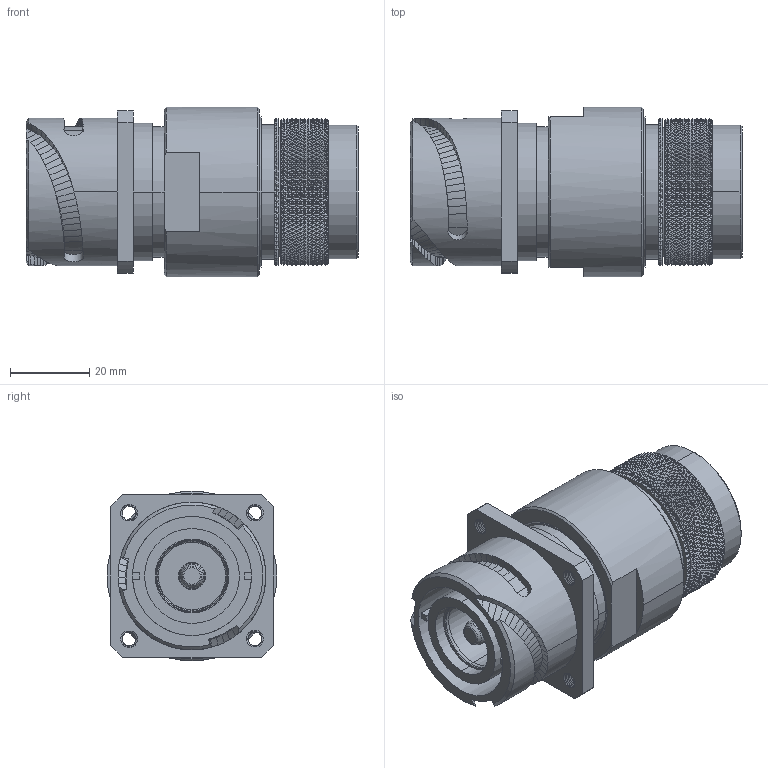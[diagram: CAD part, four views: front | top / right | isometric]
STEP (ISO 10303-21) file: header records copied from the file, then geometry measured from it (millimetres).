
FILE_DESCRIPTION((''),'2;1');
FILE_NAME('GCE3100E22M95P-B-T14_SW0001','2023-06-01T11:14:31',('paultorloting'),('NET AG system integration'),'CREO PARAMETRIC BY PTC INC, 2021404','CREO PARAMETRIC BY PTC INC, 2021404','');
FILE_SCHEMA(('AUTOMOTIVE_DESIGN { 1 0 10303 214 1 1 1 1 }'));
Products named in the file (1): GCE3100E22M95P-B-T14_SW0001
Bounding box: 84.01 x 43 x 43 mm (x, y, z)
Volume: 84554.6 mm3; surface area: 25968.3 mm2
Topology: 1 solids, 1 shells, 7750 faces, 16353 edges, 8636 vertices
Faces by surface type: bspline 4901, plane 1593, cylinder 1201, cone 39, torus 16
Entity records: 290885 total; most frequent: CARTESIAN_POINT 161658, ORIENTED_EDGE 32706, EDGE_CURVE 16353, B_SPLINE_CURVE_WITH_KNOTS 12567, DIRECTION 9697, VERTEX_POINT 8636, EDGE_LOOP 7791, FACE_OUTER_BOUND 7750
